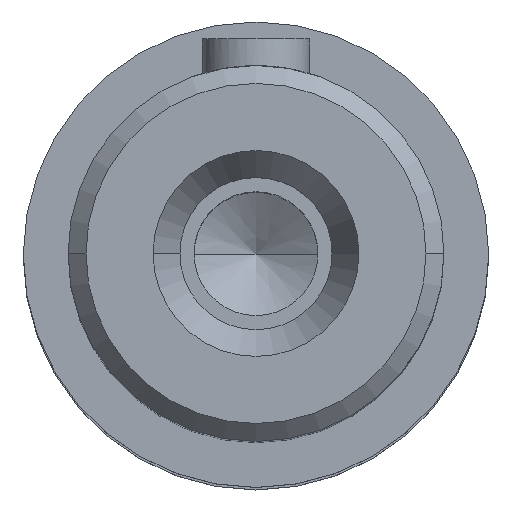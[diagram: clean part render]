
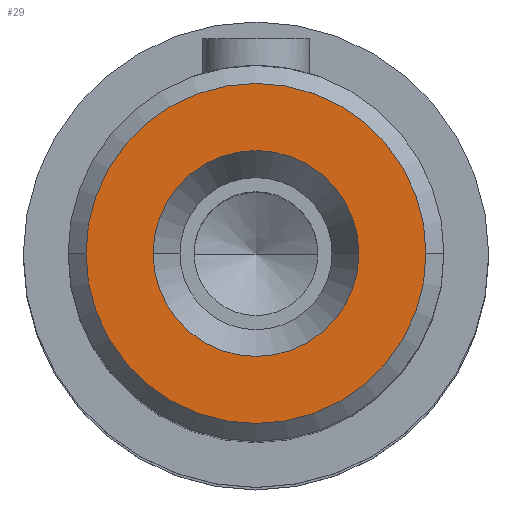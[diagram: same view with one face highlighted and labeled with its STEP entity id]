
A CAD part, top view. The second image highlights one B-rep face of the part: STEP entity #29.
In plain terms, the highlighted planar face has unit normal (0, 0, 1) as drawn and (1, 0, 0) by its records, which use the part's own axes.
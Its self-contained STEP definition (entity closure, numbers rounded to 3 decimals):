
#29=ADVANCED_FACE('',(#68,#55),#470,.T.);
#55=FACE_BOUND('',#106,.T.);
#68=FACE_OUTER_BOUND('',#105,.T.);
#105=EDGE_LOOP('',(#174,#175));
#106=EDGE_LOOP('',(#176,#177));
#174=ORIENTED_EDGE('',*,*,#274,.F.);
#175=ORIENTED_EDGE('',*,*,#277,.F.);
#176=ORIENTED_EDGE('',*,*,#319,.F.);
#177=ORIENTED_EDGE('',*,*,#294,.F.);
#274=EDGE_CURVE('',#432,#435,#329,.T.);
#277=EDGE_CURVE('',#435,#432,#331,.T.);
#294=EDGE_CURVE('',#434,#458,#339,.T.);
#319=EDGE_CURVE('',#458,#434,#353,.T.);
#329=TRIMMED_CURVE($,#363,(#1021),(#1022),.T.,.CARTESIAN.);
#331=TRIMMED_CURVE($,#365,(#1029),(#1030),.T.,.CARTESIAN.);
#339=TRIMMED_CURVE($,#373,(#1071),(#1072),.T.,.CARTESIAN.);
#353=TRIMMED_CURVE($,#387,(#1135),(#1136),.T.,.CARTESIAN.);
#363=CIRCLE('',#703,19.);
#365=CIRCLE('',#705,19.);
#373=CIRCLE('',#713,11.5);
#387=CIRCLE('',#727,11.5);
#432=VERTEX_POINT('',#934);
#434=VERTEX_POINT('',#936);
#435=VERTEX_POINT('',#937);
#458=VERTEX_POINT('',#960);
#470=PLANE('',#678);
#678=AXIS2_PLACEMENT_3D('',#854,#744,$);
#703=AXIS2_PLACEMENT_3D($,#1020,#778,#779);
#705=AXIS2_PLACEMENT_3D($,#1028,#782,#783);
#713=AXIS2_PLACEMENT_3D($,#1070,#798,#799);
#727=AXIS2_PLACEMENT_3D($,#1134,#826,#827);
#744=DIRECTION('',(1.,0.,0.));
#778=DIRECTION('',(-1.,0.,0.));
#779=DIRECTION('',(0.,0.,1.));
#782=DIRECTION('',(-1.,0.,0.));
#783=DIRECTION('',(0.,0.,-1.));
#798=DIRECTION('',(1.,0.,0.));
#799=DIRECTION('',(0.,0.,-1.));
#826=DIRECTION('',(1.,0.,0.));
#827=DIRECTION('',(0.,0.,1.));
#854=CARTESIAN_POINT('',(162.,-22.86,-22.86));
#934=CARTESIAN_POINT('',(162.,0.,19.));
#936=CARTESIAN_POINT('',(162.,0.,-11.5));
#937=CARTESIAN_POINT('',(162.,0.,-19.));
#960=CARTESIAN_POINT('',(162.,0.,11.5));
#1020=CARTESIAN_POINT('',(162.,0.,0.));
#1021=CARTESIAN_POINT('',(162.,0.,19.));
#1022=CARTESIAN_POINT('',(162.,0.,-19.));
#1028=CARTESIAN_POINT('',(162.,0.,0.));
#1029=CARTESIAN_POINT('',(162.,0.,-19.));
#1030=CARTESIAN_POINT('',(162.,0.,19.));
#1070=CARTESIAN_POINT('',(162.,0.,0.));
#1071=CARTESIAN_POINT('',(162.,0.,-11.5));
#1072=CARTESIAN_POINT('',(162.,0.,11.5));
#1134=CARTESIAN_POINT('',(162.,0.,0.));
#1135=CARTESIAN_POINT('',(162.,0.,11.5));
#1136=CARTESIAN_POINT('',(162.,0.,-11.5));
